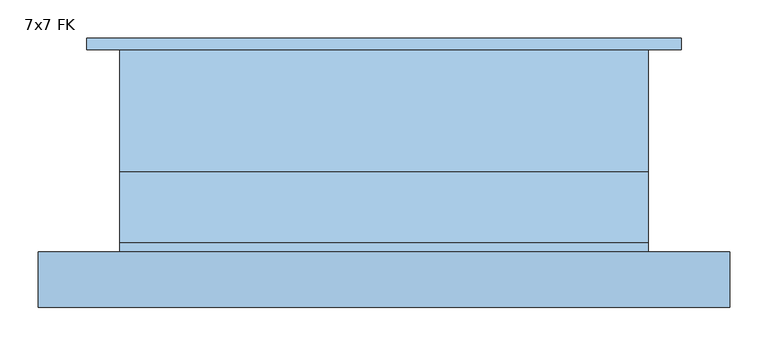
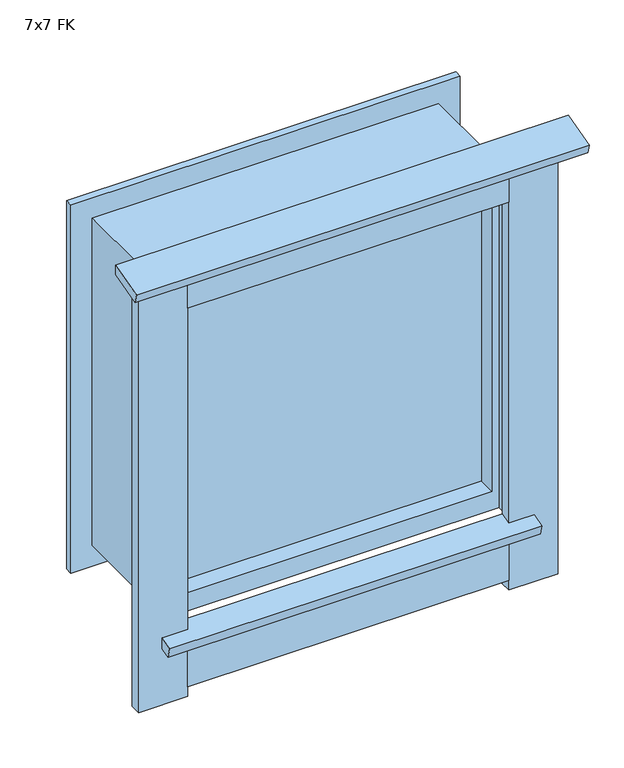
"""IFC4 building model written with IfcOpenShell, lengths in millimetres: window geometry, Vindu FK : 7x7 FK."""

from ifc_helpers import new_model, si_unit, frame, origin, place, context, project, spatial, polyline, outline, extrude, faceted_brep, source, transform, mapped, element, save


def window_7x7_fk_a22a5b26(model_context):
    return source(origin(), model_context, "Body", "SolidModel", [
        extrude(outline(polyline([(-204.444437, 1659.1537013), (-132.0, 1678.5651297), (-132.0, 1658.8948822), (-199.5268751, 1640.8011106), (-204.444437, 1659.1537013)])), frame((-451.0, 0.0, 0.0), z_axis=(1.0, 0.0, 0.0), x_axis=(0.0, 1.0, 0.0)), (0.0, 0.0, 1.0), 902.0),
        extrude(outline(polyline([(-180.2962913, 870.6791642), (-132.0, 883.6201165), (-132.0, 860.8440405), (-174.6022723, 849.4287961), (-180.2962913, 870.6791642)])), frame((-371.0, 0.0, 0.0), z_axis=(1.0, 0.0, 0.0), x_axis=(0.0, 1.0, 0.0)), (0.0, 0.0, 1.0), 742.0),
        extrude(outline(polyline([(-320.0, -132.0), (320.0, -132.0), (320.0, -154.0), (-320.0, -154.0), (-320.0, -132.0)])), frame((0.0, 0.0, 757.0051732), z_axis=(0.0, 0.0, 1.0), x_axis=(1.0, 0.0, 0.0)), (0.0, 0.0, 1.0), 98.0),
        extrude(outline(polyline([(-320.0, -132.0), (320.0, -132.0), (320.0, -154.0), (-320.0, -154.0), (-320.0, -132.0)])), frame((0.0, 0.0, 1555.0), z_axis=(0.0, 0.0, 1.0), x_axis=(1.0, 0.0, 0.0)), (0.0, 0.0, 1.0), 98.0),
        extrude(outline(polyline([(418.0, -132.0), (418.0, -154.0), (320.0, -154.0), (320.0, -132.0), (418.0, -132.0)])), frame((0.0, 0.0, 737.0), z_axis=(0.0, 0.0, 1.0), x_axis=(1.0, 0.0, 0.0)), (0.0, 0.0, 1.0), 916.0),
        extrude(outline(polyline([(-320.0, -132.0), (-320.0, -154.0), (-418.0, -154.0), (-418.0, -132.0), (-320.0, -132.0)])), frame((0.0, 0.0, 737.0), z_axis=(0.0, 0.0, 1.0), x_axis=(1.0, 0.0, 0.0)), (0.0, 0.0, 1.0), 916.0),
        extrude(outline(polyline([(-306.0, -84.0), (-306.0, -60.0), (306.0, -60.0), (306.0, -84.0), (-306.0, -84.0)])), frame((0.0, 0.0, 929.0), z_axis=(0.0, 0.0, 1.0), x_axis=(1.0, 0.0, 0.0)), (0.0, 0.0, 1.0), 612.0),
        faceted_brep([(-345.0, -120.0, 890.0), (-345.0, -120.0, 1580.0), (-345.0, -28.0, 1580.0), (-345.0, -28.0, 890.0), (-306.0, -60.0, 929.0), (-306.0, -60.0, 1541.0), (-306.0, -120.0, 1541.0), (-306.0, -120.0, 929.0), (-288.0, -28.0, 947.0), (-288.0, -28.0, 1523.0), (-288.0, -60.0, 1523.0), (-288.0, -60.0, 947.0), (345.0, -120.0, 1580.0), (345.0, -28.0, 1580.0), (306.0, -60.0, 1541.0), (306.0, -120.0, 1541.0), (288.0, -28.0, 1523.0), (288.0, -60.0, 1523.0), (345.0, -120.0, 890.0), (345.0, -28.0, 890.0), (306.0, -60.0, 929.0), (306.0, -120.0, 929.0), (288.0, -28.0, 947.0), (288.0, -60.0, 947.0)], [[[0, 1, 2, 3]], [[4, 5, 6, 7]], [[8, 9, 10, 11]], [[1, 12, 13, 2]], [[5, 14, 15, 6]], [[9, 16, 17, 10]], [[12, 18, 19, 13]], [[14, 20, 21, 15]], [[16, 22, 23, 17]], [[18, 0, 3, 19]], [[1, 0, 18, 12], [7, 6, 15, 21]], [[20, 4, 7, 21]], [[5, 4, 20, 14], [11, 10, 17, 23]], [[22, 8, 11, 23]], [[3, 2, 13, 19], [9, 8, 22, 16]]]),
        faceted_brep([(-345.0, 132.0, 890.0), (345.0, 132.0, 890.0), (345.0, -28.0, 890.0), (-345.0, -28.0, 890.0), (345.0, 132.0, 1580.0), (345.0, -28.0, 1580.0), (-345.0, -28.0, 1580.0), (330.0, -28.0, 1565.0), (330.0, -28.0, 905.0), (-330.0, -28.0, 905.0), (-330.0, -28.0, 1565.0), (388.0, 132.0, 847.0), (388.0, 132.0, 1623.0), (-388.0, 132.0, 1623.0), (-388.0, 132.0, 847.0), (-345.0, 132.0, 1580.0), (-388.0, 147.0, 847.0), (388.0, 147.0, 847.0), (388.0, 147.0, 1623.0), (-388.0, 147.0, 1623.0), (330.0, 147.0, 905.0), (330.0, 147.0, 1565.0), (-330.0, 147.0, 1565.0), (-330.0, 147.0, 905.0)], [[[0, 1, 2, 3]], [[1, 4, 5, 2]], [[2, 5, 6, 3], [7, 8, 9, 10]], [[11, 12, 13, 14], [4, 1, 0, 15]], [[16, 17, 11, 14]], [[17, 18, 12, 11]], [[18, 17, 16, 19], [20, 21, 22, 23]], [[9, 8, 20, 23]], [[8, 7, 21, 20]], [[15, 0, 3, 6]], [[19, 16, 14, 13]], [[10, 9, 23, 22]], [[4, 15, 6, 5]], [[18, 19, 13, 12]], [[7, 10, 22, 21]]]),
        extrude(outline(polyline([(890.0, 345.0), (1580.0, 345.0), (1580.0, -345.0), (890.0, -345.0), (890.0, -320.0), (1555.0, -320.0), (1555.0, 320.0), (890.0, 320.0), (890.0, 345.0)])), frame((0.0, -132.0, 0.0), z_axis=(0.0, 1.0, 0.0), x_axis=(0.0, 0.0, 1.0)), (0.0, 0.0, 1.0), 12.0),
    ])


if __name__ == "__main__":
    model = new_model("IFC4")
    model_context = context("Model", 3, world=origin())
    ifc_project = project(units=[si_unit("LENGTHUNIT", "METRE", prefix="MILLI")], contexts=[model_context])
    site = spatial("IfcSite", under=ifc_project)
    building = spatial("IfcBuilding", under=site)
    placement = place(None, origin())
    window_7x7_fk_shape = window_7x7_fk_a22a5b26(model_context)
    element("IfcWindow", 1, ObjectType="Vindu FK : 7x7 FK", at=placement, inside=building, context=model_context, shape_type="MappedRepresentation", body=[
        mapped(window_7x7_fk_shape, transform((0.0, 0.0, 0.0), x_axis=(1.0, 0.0, 0.0), y_axis=(0.0, 1.0, 0.0), z_axis=(0.0, 0.0, 1.0))),
    ])
    save(model, "model.ifc")
